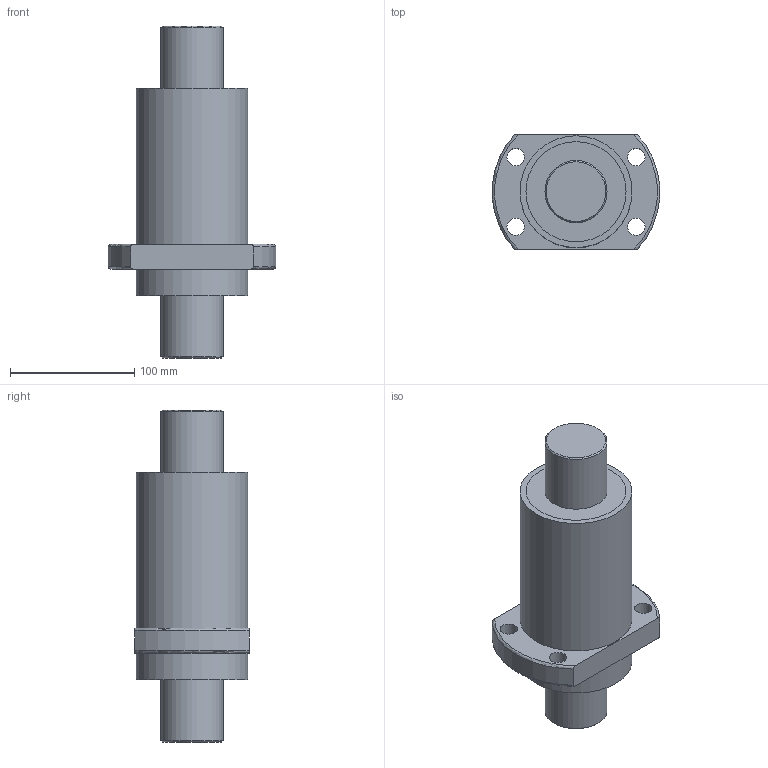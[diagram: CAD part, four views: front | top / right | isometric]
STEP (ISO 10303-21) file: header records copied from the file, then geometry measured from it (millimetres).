
FILE_DESCRIPTION(/* description */ (''),/* implementation_level */ '2;1');
FILE_NAME(/* name */ 'SFY50501.stp',/* time_stamp */ '2014-02-21T10:44:05+08:00',/* author */ (''),/* organization */ (''),/* preprocessor_version */ 'ST-DEVELOPER v11',/* originating_system */ 'SIEMENS UGS NX 6.0',/* authorisation */ '');
FILE_SCHEMA (('CONFIG_CONTROL_DESIGN'));
Length unit declared in the file: millimetre
Products named in the file (1): fann4717bkdy
Bounding box: 134.53 x 92 x 267 mm (x, y, z)
Volume: 1346248.1 mm3; surface area: 164380.3 mm2
Topology: 4 solids, 4 shells, 52 faces, 101 edges, 69 vertices
Faces by surface type: cylinder 24, plane 22, torus 4, cone 2
Full cylindrical faces by diameter (mm): 14 x4, 50 x4, 79 x4, 80.5 x4, 82 x4, 90 x2
Entity records: 1364 total; most frequent: CARTESIAN_POINT 278, DIRECTION 224, ORIENTED_EDGE 140, AXIS2_PLACEMENT_3D 108, EDGE_LOOP 102, FACE_BOUND 92, EDGE_CURVE 70, VERTEX_POINT 62
